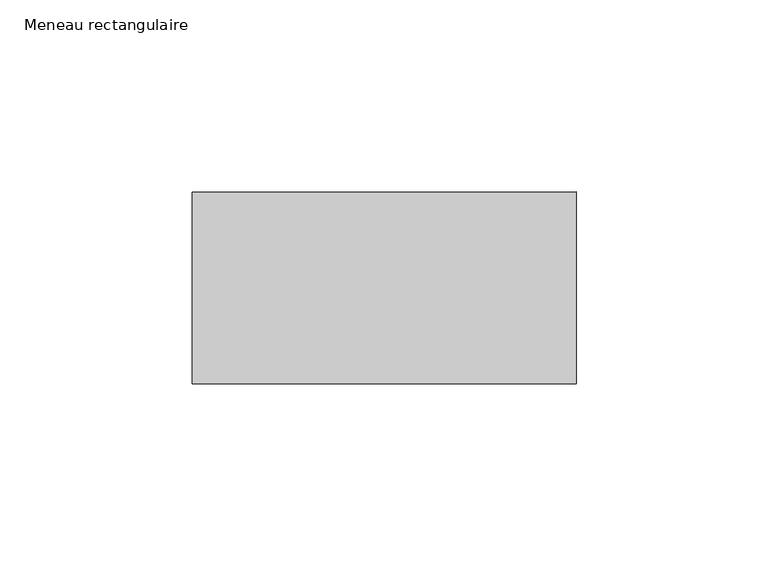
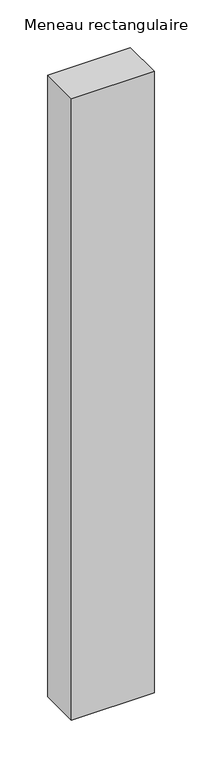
"""IFC4 building model written with IfcOpenShell, lengths in millimetres: member geometry, Meneau rectangulaire : 10x5cm aluminium laqué gris."""

from ifc_helpers import new_model, si_unit, frame, origin, place, context, project, spatial, polyline, outline, extrude, source, transform, mapped, element, save


def meneau_rectangulaire_6299a4b6(model_context):
    return source(origin(), model_context, "Body", "SweptSolid", [
        extrude(outline(polyline([(0.0, 25.0), (0.0, -25.0), (-100.0, -25.0), (-100.0, 25.0), (0.0, 25.0)])), frame((0.0, 0.0, -796.05362), z_axis=(0.0, 0.0, 1.0), x_axis=(1.0, 0.0, 0.0)), (0.0, 0.0, 1.0), 796.05362),
    ])


if __name__ == "__main__":
    model = new_model("IFC4")
    model_context = context("Model", 3, world=origin())
    ifc_project = project(units=[si_unit("LENGTHUNIT", "METRE", prefix="MILLI")], contexts=[model_context])
    site = spatial("IfcSite", under=ifc_project)
    building = spatial("IfcBuilding", under=site)
    placement = place(None, origin())
    meneau_rectangulaire_shape = meneau_rectangulaire_6299a4b6(model_context)
    element("IfcMember", 1, ObjectType="Meneau rectangulaire : 10x5cm aluminium laqué gris", at=placement, inside=building, context=model_context, shape_type="MappedRepresentation", body=[
        mapped(meneau_rectangulaire_shape, transform((0.0, 0.0, 0.0), x_axis=(1.0, 0.0, 0.0), y_axis=(0.0, 1.0, 0.0), z_axis=(0.0, 0.0, 1.0))),
    ])
    save(model, "model.ifc")
